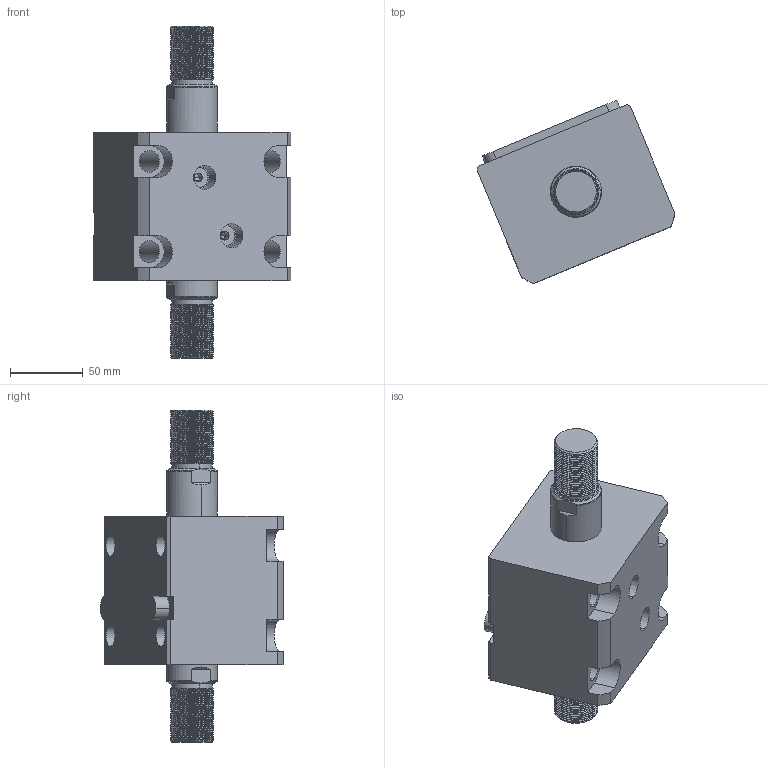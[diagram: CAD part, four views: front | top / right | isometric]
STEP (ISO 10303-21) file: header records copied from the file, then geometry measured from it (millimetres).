
FILE_DESCRIPTION (( 'STEP AP214' ), '1' );
FILE_NAME ('chtb-lw63x20w_asm.STEP', '2018-05-18T08:02:10', ( 'Windows' ), ( 'Microsoft' ), 'SwSTEP 2.0', 'SolidWorks 2015', '' );
FILE_SCHEMA (( 'AUTOMOTIVE_DESIGN' ));
Length unit declared in the file: millimetre
Products named in the file (5): CHTB-LA63PJ; CHTB-SW63X20WHSG; CHTB-LW63X20NBT; CHTB-63QG; chtb-lw63x20w_asm
Assembly tree (4 placements, depth 2):
  chtb-lw63x20w_asm
    CHTB-63QG
    CHTB-LW63X20NBT
    CHTB-SW63X20WHSG
    CHTB-LA63PJ
Bounding box: 135.77 x 126.06 x 228 mm (x, y, z)
Volume: 1009613.6 mm3; surface area: 156459.2 mm2
Topology: 4 solids, 4 shells, 306 faces, 889 edges, 601 vertices
Faces by surface type: cylinder 204, plane 58, bspline 16, cone 16, torus 12
Entity records: 27878 total; most frequent: CARTESIAN_POINT 20531, ORIENTED_EDGE 1770, DIRECTION 1228, EDGE_CURVE 885, VERTEX_POINT 601, AXIS2_PLACEMENT_3D 458, EDGE_LOOP 336, VECTOR 312
